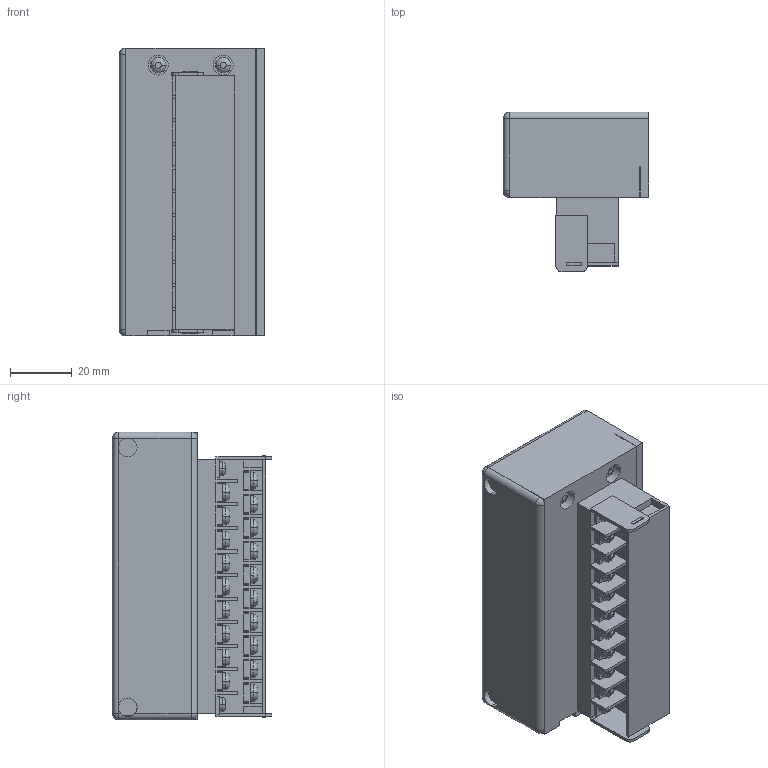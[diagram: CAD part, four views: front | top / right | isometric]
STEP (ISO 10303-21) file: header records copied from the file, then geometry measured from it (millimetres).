
FILE_DESCRIPTION( (''), '2;1');
FILE_NAME ('CVICAD32.25716.FZX-T200_10802.stp','2020-09-09T09:20:58',(''),(''),'spGate 12.6.6','','');
FILE_SCHEMA (('AUTOMOTIVE_DESIGN'));
Length unit declared in the file: millimetre
Products named in the file (3): Assembly; Y029379_端子台ブロックT200_20190905; CVICAD32-prt1
Assembly tree (2 placements, depth 2):
  Assembly
    Y029379_端子台ブロックT200_20190905
    CVICAD32-prt1
Bounding box: 47 x 51.5 x 93 mm (x, y, z)
Volume: 142518.1 mm3; surface area: 33027.5 mm2
Topology: 2 solids, 2 shells, 964 faces, 2677 edges, 1760 vertices
Faces by surface type: plane 768, cylinder 144, bspline 48, sphere 4
Entity records: 52803 total; most frequent: CARTESIAN_POINT 8373, ORIENTED_EDGE 5346, DIRECTION 4376, COLOUR_RGB 3639, PRESENTATION_STYLE_ASSIGNMENT 3639, STYLED_ITEM 3639, EDGE_CURVE 2673, DRAUGHTING_PRE_DEFINED_CURVE_FONT 2673
